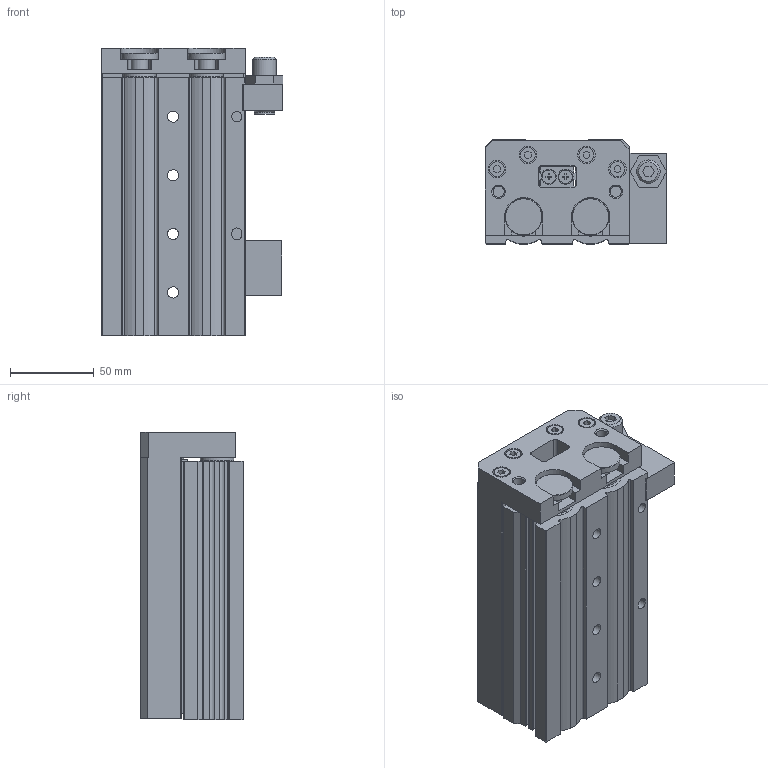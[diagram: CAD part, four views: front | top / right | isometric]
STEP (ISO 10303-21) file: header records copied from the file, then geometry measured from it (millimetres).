
FILE_DESCRIPTION( ( 'STEP AP214' ), '1' );
FILE_NAME( 'C:/Users/EMC02301/Desktop/ELSL图纸/ELSL25X75-S-AS.stp', '2026-08-05T08:22:30', ( 'License CC BY-ND 4.0' ), ( 'CADENAS' ), ' ', 'PARTsolutions', ' ' );
FILE_SCHEMA( ( 'AUTOMOTIVE_DESIGN { 1 0 10303 214 1 1 1 1 }' ) );
Length unit declared in the file: millimetre
Products named in the file (5): ELSL25X75-S-AS(0)(); _ELSL25X75-S-AS(HX-07)(HX-07-1)(0-body); _ELSL25X75-S-AS(0-rod); _FJ-ELS25-AS; _FJ-ELSL25-AS-(AS)
Assembly tree (4 placements, depth 2):
  ELSL25X75-S-AS(0)()
    _ELSL25X75-S-AS(HX-07)(HX-07-1)(0-body)
    _ELSL25X75-S-AS(0-rod)
    _FJ-ELS25-AS
    _FJ-ELSL25-AS-(AS)
Bounding box: 108.5 x 62 x 172 mm (x, y, z)
Volume: 784376.1 mm3; surface area: 178246.8 mm2
Topology: 4 solids, 4 shells, 567 faces, 1377 edges, 912 vertices
Faces by surface type: plane 411, cylinder 124, cone 32
Full cylindrical faces by diameter (mm): 4.917 x12, 6 x2, 6.647 x10, 6.8 x4, 8 x8, 8.566 x2, 9 x12, 10 x6, 10.267 x2, 10.5 x6, 10.667 x2, 10.9 x2, 12 x8, 12.4 x1, 14 x1, 20 x2, 22 x2, 23 x2, 25 x4, 26 x2
Entity records: 20399 total; most frequent: CARTESIAN_POINT 2701, DIRECTION 2663, ORIENTED_EDGE 2472, EDGE_CURVE 1236, LINE 953, VECTOR 953, VERTEX_POINT 893, AXIS2_PLACEMENT_3D 855
